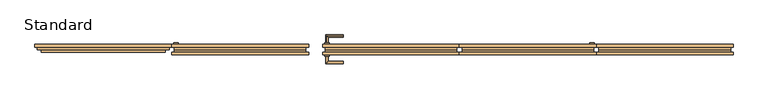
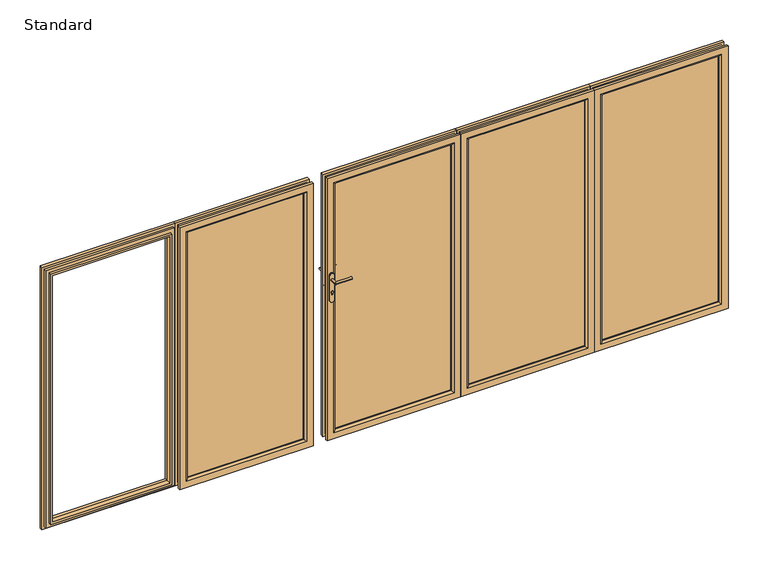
"""IFC4 building model written with IfcOpenShell, lengths in millimetres: door geometry, SMARTS_Visofold1000 : Standard."""

from ifc_helpers import new_model, si_unit, point, frame, frame_2d, origin, place, context, project, spatial, polyline, circle_curve, ellipse_curve, trimmed, segment, composite_curve, outline, extrude, faceted_brep, source, transform, mapped, element, save
from ifc_brep_helpers import plane_surface, cylinder_surface, advanced_brep


def standard_3cb3bd3f(model_context):
    return source(origin(), model_context, "Body", "SolidModel", [
        extrude(outline(composite_curve([segment(polyline([(1228.0996413, 1450.0), (1040.0996413, 1450.0)]), True, "CONTINUOUS"), segment(trimmed(circle_curve(frame_2d((1040.0996413, 1466.0)), 16.0), [point((1040.0996413, 1450.0))], [point((1040.0996413, 1482.0))], False, "CARTESIAN"), True, "CONTINUOUS"), segment(polyline([(1040.0996413, 1482.0), (1228.0996413, 1482.0)]), True, "CONTINUOUS"), segment(trimmed(circle_curve(frame_2d((1228.0996413, 1466.0)), 16.0), [point((1228.0996413, 1482.0))], [point((1228.0996413, 1450.0))], False, "CARTESIAN"), True, "CONTINUOUS")], self_intersect=False)), frame((0.0, 75.0, 0.0), z_axis=(0.0, 1.0, 0.0), x_axis=(0.0, 0.0, 1.0)), (0.0, 0.0, 1.0), 10.0),
        extrude(outline(polyline([(45.0, 1451.0), (1955.0, 1451.0), (1955.0, 577.0), (45.0, 577.0), (45.0, 1451.0)]), holes=[polyline([(1939.5, 1435.5), (60.5, 1435.5), (60.5, 592.5), (1939.5, 592.5), (1939.5, 1435.5)])]), frame((0.0, 17.4, 0.0), z_axis=(0.0, 1.0, 0.0), x_axis=(0.0, 0.0, 1.0)), (0.0, 0.0, 1.0), 35.0),
        faceted_brep([(1496.0, 74.4, 0.0), (1496.0, 74.4, 2000.0), (1496.0, 52.4, 2000.0), (1496.0, 52.4, 0.0), (1435.5, 52.4, 60.5), (1435.5, 52.4, 1939.5), (1435.5, 74.4, 1939.5), (1435.5, 74.4, 60.5), (532.0, 74.4, 2000.0), (532.0, 52.4, 2000.0), (592.5, 52.4, 1939.5), (592.5, 74.4, 1939.5), (532.0, 74.4, 0.0), (532.0, 52.4, 0.0), (592.5, 52.4, 60.5), (592.5, 74.4, 60.5), (1478.1308519, 34.8, 17.8691481), (1478.1308519, 34.8, 1982.1308519), (549.8691481, 34.8, 1982.1308519), (549.8691481, 34.8, 17.8691481), (1451.0, 34.8, 1955.0), (1451.0, 34.8, 45.0), (577.0, 34.8, 45.0), (577.0, 34.8, 1955.0), (1478.1308519, 52.4, 17.8691481), (1478.1308519, 52.4, 1982.1308519), (1451.0, 52.4, 1955.0), (1451.0, 52.4, 45.0), (549.8691481, 52.4, 1982.1308519), (577.0, 52.4, 1955.0), (549.8691481, 52.4, 17.8691481), (577.0, 52.4, 45.0)], [[[0, 1, 2, 3]], [[4, 5, 6, 7]], [[1, 8, 9, 2]], [[5, 10, 11, 6]], [[8, 12, 13, 9]], [[10, 14, 15, 11]], [[12, 0, 3, 13]], [[1, 0, 12, 8], [7, 6, 11, 15]], [[14, 4, 7, 15]], [[16, 17, 18, 19], [20, 21, 22, 23]], [[24, 25, 17, 16]], [[21, 20, 26, 27]], [[25, 28, 18, 17]], [[20, 23, 29, 26]], [[28, 30, 19, 18]], [[23, 22, 31, 29]], [[30, 24, 16, 19]], [[3, 2, 9, 13], [25, 24, 30, 28]], [[27, 26, 29, 31], [5, 4, 14, 10]], [[22, 21, 27, 31]]]),
        advanced_brep(
        [(1435.5, 13.3, 60.5), (1435.5, 13.3, 1939.5), (1435.5, 17.4, 1939.5), (1435.5, 17.4, 60.5), (1496.0, 17.4, 0.0), (1496.0, 17.4, 2000.0), (1496.0, 0.0, 2000.0), (1496.0, 0.0, 0.0), (592.5, 13.3, 1939.5), (592.5, 17.4, 1939.5), (532.0, 17.4, 2000.0), (532.0, 0.0, 2000.0), (592.5, 13.3, 60.5), (592.5, 17.4, 60.5), (532.0, 17.4, 0.0), (532.0, 0.0, 0.0), (1448.8, 0.0, 1952.8), (1448.8, 0.0, 47.2), (579.2, 0.0, 47.2), (579.2, 0.0, 1952.8), (1478.1308519, 34.8, 17.8691481), (1478.1308519, 34.8, 1982.1308519), (1478.1308519, 17.4, 1982.1308519), (1478.1308519, 17.4, 17.8691481), (549.8691481, 34.8, 1982.1308519), (549.8691481, 17.4, 1982.1308519), (549.8691481, 34.8, 17.8691481), (549.8691481, 17.4, 17.8691481), (1451.0, 17.4, 45.0), (1451.0, 17.4, 1955.0), (1451.0, 34.8, 1955.0), (1451.0, 34.8, 45.0), (577.0, 17.4, 1955.0), (577.0, 34.8, 1955.0), (577.0, 17.4, 45.0), (577.0, 34.8, 45.0)],
        [
            (0, 1),
            (1, 2),
            (2, 3),
            (3, 0),
            (4, 5),
            (5, 6),
            (6, 7),
            (7, 4),
            (1, 8),
            (8, 9),
            (9, 2),
            (5, 10),
            (10, 11),
            (11, 6),
            (8, 12),
            (12, 13),
            (13, 9),
            (10, 14),
            (14, 15),
            (15, 11),
            (12, 0),
            (3, 13),
            (15, 7),
            (16, 17),
            (17, 18),
            (18, 19),
            (19, 16),
            (14, 4),
            (16, 1, ellipse_curve(frame((1448.8, 13.3, 1952.8), z_axis=(0.7071067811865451, 0.0, -0.70710678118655), x_axis=(-0.7071067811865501, 0.0, -0.7071067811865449)), 18.8090404, 13.3)),
            (0, 17, ellipse_curve(frame((1448.8, 13.3, 47.2), z_axis=(0.7071067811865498, 0.0, 0.7071067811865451), x_axis=(0.7071067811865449, 0.0, -0.70710678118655)), 18.8090404, 13.3)),
            (19, 8, ellipse_curve(frame((579.2, 13.3, 1952.8), z_axis=(0.7071067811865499, 0.0, 0.707106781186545), x_axis=(0.7071067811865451, 0.0, -0.7071067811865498)), 18.8090404, 13.3)),
            (18, 12, ellipse_curve(frame((579.2, 13.3, 47.2), z_axis=(-0.7071067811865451, 0.0, 0.7071067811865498), x_axis=(0.7071067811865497, 0.0, 0.7071067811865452)), 18.8090404, 13.3)),
            (20, 21),
            (21, 22),
            (22, 23),
            (23, 20),
            (21, 24),
            (24, 25),
            (25, 22),
            (24, 26),
            (26, 27),
            (27, 25),
            (27, 23),
            (26, 20),
            (28, 29),
            (29, 30),
            (30, 31),
            (31, 28),
            (29, 32),
            (32, 33),
            (33, 30),
            (32, 34),
            (34, 35),
            (35, 33),
            (34, 28),
            (31, 35),
        ],
        [
            plane_surface(frame((1435.5, 17.4, 60.5), z_axis=(-1.0, 0.0, 0.0), x_axis=(0.0, 0.0, 1.0))),
            plane_surface(frame((1496.0, 0.0, 0.0), z_axis=(1.0, 0.0, 0.0), x_axis=(0.0, 0.0, 1.0))),
            plane_surface(frame((1435.5, 17.4, 1939.5), z_axis=(0.0, 0.0, -1.0), x_axis=(-1.0, 0.0, 0.0))),
            plane_surface(frame((1496.0, 0.0, 2000.0), z_axis=(0.0, 0.0, 1.0), x_axis=(-1.0, 0.0, 0.0))),
            plane_surface(frame((592.5, 17.4, 1939.5), z_axis=(1.0, 0.0, 0.0), x_axis=(0.0, 0.0, -1.0))),
            plane_surface(frame((532.0, 0.0, 2000.0), z_axis=(-1.0, 0.0, 0.0), x_axis=(0.0, 0.0, -1.0))),
            plane_surface(frame((592.5, 17.4, 60.5), z_axis=(0.0, 0.0, 1.0), x_axis=(1.0, 0.0, 0.0))),
            plane_surface(frame((579.2, 0.0, 47.2), z_axis=(0.0, -1.0, 0.0), x_axis=(1.0, 0.0, 0.0))),
            plane_surface(frame((532.0, 0.0, 0.0), z_axis=(0.0, 0.0, -1.0), x_axis=(1.0, 0.0, 0.0))),
            cylinder_surface(frame((1448.8, 13.3, 0.0), z_axis=(0.0, 0.0, -1.0), x_axis=(0.0, 1.0, 0.0)), 13.3),
            cylinder_surface(frame((1496.0, 13.3, 1952.8), z_axis=(1.0, 0.0, 0.0), x_axis=(0.0, 1.0, 0.0)), 13.3),
            cylinder_surface(frame((579.2, 13.3, 2000.0), z_axis=(0.0, 0.0, 1.0), x_axis=(0.0, 1.0, 0.0)), 13.3),
            cylinder_surface(frame((532.0, 13.3, 47.2), z_axis=(-1.0, 0.0, 0.0), x_axis=(0.0, 1.0, 0.0)), 13.3),
            plane_surface(frame((1478.1308519, 17.4, 17.8691481), z_axis=(1.0, 0.0, 0.0), x_axis=(0.0, 0.0, 1.0))),
            plane_surface(frame((1478.1308519, 17.4, 1982.1308519), z_axis=(0.0, 0.0, 1.0), x_axis=(-1.0, 0.0, 0.0))),
            plane_surface(frame((549.8691481, 17.4, 1982.1308519), z_axis=(-1.0, 0.0, 0.0), x_axis=(0.0, 0.0, -1.0))),
            plane_surface(frame((532.0, 17.4, 0.0), z_axis=(0.0, 1.0, 0.0), x_axis=(1.0, 0.0, 0.0))),
            plane_surface(frame((549.8691481, 17.4, 17.8691481), z_axis=(0.0, 0.0, -1.0), x_axis=(1.0, 0.0, 0.0))),
            plane_surface(frame((1451.0, 34.8, 45.0), z_axis=(-1.0, 0.0, 0.0), x_axis=(0.0, 0.0, 1.0))),
            plane_surface(frame((1451.0, 34.8, 1955.0), z_axis=(0.0, 0.0, -1.0), x_axis=(-1.0, 0.0, 0.0))),
            plane_surface(frame((577.0, 34.8, 1955.0), z_axis=(1.0, 0.0, 0.0), x_axis=(0.0, 0.0, -1.0))),
            plane_surface(frame((577.0, 34.8, 45.0), z_axis=(0.0, 0.0, 1.0), x_axis=(1.0, 0.0, 0.0))),
            plane_surface(frame((577.0, 17.4, 45.0), z_axis=(0.0, 1.0, 0.0), x_axis=(1.0, 0.0, 0.0))),
            plane_surface(frame((549.8691481, 34.8, 17.8691481), z_axis=(0.0, 1.0, 0.0), x_axis=(1.0, 0.0, 0.0))),
        ],
        [
            (0, [[1, 2, 3, 4]]),
            (1, [[5, 6, 7, 8]]),
            (2, [[9, 10, 11, -2]]),
            (3, [[12, 13, 14, -6]]),
            (4, [[15, 16, 17, -10]]),
            (5, [[18, 19, 20, -13]]),
            (6, [[21, -4, 22, -16]]),
            (7, [[-7, -14, -20, 23], [24, 25, 26, 27]]),
            (8, [[28, -8, -23, -19]]),
            (9, [[-24, 29, -1, 30]]),
            (10, [[-27, 31, -9, -29]]),
            (11, [[-26, 32, -15, -31]]),
            (12, [[-25, -30, -21, -32]]),
            (13, [[33, 34, 35, 36]]),
            (14, [[37, 38, 39, -34]]),
            (15, [[40, 41, 42, -38]]),
            (16, [[-5, -28, -18, -12], [-35, -39, -42, 43]]),
            (17, [[44, -36, -43, -41]]),
            (18, [[45, 46, 47, 48]]),
            (19, [[49, 50, 51, -46]]),
            (20, [[52, 53, 54, -50]]),
            (21, [[55, -48, 56, -53]]),
            (22, [[-45, -55, -52, -49], [-3, -11, -17, -22]]),
            (23, [[-33, -44, -40, -37], [-47, -51, -54, -56]]),
        ],
    ),
        extrude(outline(polyline([(1435.5, 50.1484783), (1435.5, 21.4), (592.5, 21.4), (592.5, 50.1484783), (1435.5, 50.1484783)])), frame((0.0, 0.0, 60.5), z_axis=(0.0, 0.0, 1.0), x_axis=(1.0, 0.0, 0.0)), (0.0, 0.0, 1.0), 1879.0),
        advanced_brep(
        [(-402.0, 75.0, 1232.5996413), (-402.0, 75.0, 1215.5996413), (-402.0, 130.0, 1215.5996413), (-402.0, 130.0, 1232.5996413), (-287.0, 130.0, 1232.5996413), (-287.0, 130.0, 1215.5996413)],
        [
            (0, 1, circle_curve(frame((-402.0, 75.0, 1224.0996413), z_axis=(0.0, -1.0, 0.0), x_axis=(0.0, 0.0, -1.0)), 8.5)),
            (1, 0, circle_curve(frame((-402.0, 75.0, 1224.0996413), z_axis=(0.0, -1.0, 0.0), x_axis=(0.0, 0.0, -1.0)), 8.5)),
            (1, 2),
            (2, 3, ellipse_curve(frame((-402.0, 130.0, 1224.0996413), z_axis=(-0.7071067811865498, -0.7071067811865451, 0.0), x_axis=(0.707106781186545, -0.70710678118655, 0.0)), 12.0208153, 8.5)),
            (3, 0),
            (3, 2, ellipse_curve(frame((-402.0, 130.0, 1224.0996413), z_axis=(-0.7071067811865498, -0.7071067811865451, 0.0), x_axis=(0.707106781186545, -0.70710678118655, 0.0)), 12.0208153, 8.5)),
            (4, 5, circle_curve(frame((-287.0, 130.0, 1224.0996413), z_axis=(1.0, 0.0, 0.0), x_axis=(0.0, 0.0, -1.0)), 8.5)),
            (5, 4, circle_curve(frame((-287.0, 130.0, 1224.0996413), z_axis=(1.0, 0.0, 0.0), x_axis=(0.0, 0.0, -1.0)), 8.5)),
            (2, 5),
            (4, 3),
        ],
        [
            plane_surface(frame((-402.0, 75.0, 1224.0996413), z_axis=(0.0, -1.0, 0.0), x_axis=(0.0, 0.0, -1.0))),
            cylinder_surface(frame((-402.0, 75.0, 1224.0996413), z_axis=(0.0, -1.0, 0.0), x_axis=(0.0, 0.0, -1.0)), 8.5),
            plane_surface(frame((-287.0, 130.0, 1224.0996413), z_axis=(1.0, 0.0, 0.0), x_axis=(0.0, 0.0, -1.0))),
            cylinder_surface(frame((-402.0, 130.0, 1224.0996413), z_axis=(-1.0, 0.0, 0.0), x_axis=(0.0, 0.0, -1.0)), 8.5),
        ],
        [
            (0, [[1, 2]]),
            (1, [[-2, 3, 4, 5]]),
            (1, [[-1, -5, 6, -3]]),
            (2, [[7, 8]]),
            (3, [[-4, 9, -7, 10]]),
            (3, [[-6, -10, -8, -9]]),
        ],
    ),
        extrude(outline(composite_curve([segment(trimmed(circle_curve(frame_2d((1258.0996413, -402.0)), 16.0), [point((1258.0996413, -386.0))], [point((1258.0996413, -418.0))], False, "CARTESIAN"), True, "CONTINUOUS"), segment(polyline([(1258.0996413, -418.0), (1070.0996413, -418.0)]), True, "CONTINUOUS"), segment(trimmed(circle_curve(frame_2d((1070.0996413, -402.0)), 16.0), [point((1070.0996413, -418.0))], [point((1070.0996413, -386.0))], False, "CARTESIAN"), True, "CONTINUOUS"), segment(polyline([(1070.0996413, -386.0), (1258.0996413, -386.0)]), True, "CONTINUOUS")], self_intersect=False)), frame((0.0, 75.0, 0.0), z_axis=(0.0, 1.0, 0.0), x_axis=(0.0, 0.0, 1.0)), (0.0, 0.0, 1.0), 10.0),
        advanced_brep(
        [(-393.5, 0.0, 1224.0996413), (-410.5, 0.0, 1224.0996413), (-393.5, -46.5, 1224.0996413), (-410.5, -63.5, 1224.0996413), (-287.0, -46.5, 1224.0996413), (-287.0, -63.5, 1224.0996413)],
        [
            (0, 1, circle_curve(frame((-402.0, 0.0, 1224.0996413), z_axis=(0.0, 1.0, 0.0), x_axis=(-1.0, 0.0, 0.0)), 8.5)),
            (1, 0, circle_curve(frame((-402.0, 0.0, 1224.0996413), z_axis=(0.0, 1.0, 0.0), x_axis=(-1.0, 0.0, 0.0)), 8.5)),
            (0, 2),
            (2, 3, ellipse_curve(frame((-402.0, -55.0, 1224.0996413), z_axis=(-0.7071067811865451, 0.7071067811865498, 0.0), x_axis=(0.7071067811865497, 0.7071067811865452, 0.0)), 12.0208153, 8.5)),
            (3, 1),
            (3, 2, ellipse_curve(frame((-402.0, -55.0, 1224.0996413), z_axis=(-0.7071067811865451, 0.7071067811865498, 0.0), x_axis=(0.7071067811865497, 0.7071067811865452, 0.0)), 12.0208153, 8.5)),
            (4, 5, circle_curve(frame((-287.0, -55.0, 1224.0996413), z_axis=(1.0, 0.0, 0.0), x_axis=(0.0, -1.0, 0.0)), 8.5)),
            (5, 4, circle_curve(frame((-287.0, -55.0, 1224.0996413), z_axis=(1.0, 0.0, 0.0), x_axis=(0.0, -1.0, 0.0)), 8.5)),
            (2, 4),
            (5, 3),
        ],
        [
            plane_surface(frame((-402.0, 0.0, 1224.0996413), z_axis=(0.0, 1.0, 0.0), x_axis=(0.0, 0.0, -1.0))),
            cylinder_surface(frame((-402.0, 0.0, 1224.0996413), z_axis=(0.0, 1.0, 0.0), x_axis=(-1.0, 0.0, 0.0)), 8.5),
            plane_surface(frame((-287.0, -55.0, 1224.0996413), z_axis=(1.0, 0.0, 0.0), x_axis=(0.0, 0.0, -1.0))),
            cylinder_surface(frame((-402.0, -55.0, 1224.0996413), z_axis=(-1.0, 0.0, 0.0), x_axis=(0.0, -1.0, 0.0)), 8.5),
        ],
        [
            (0, [[1, 2]]),
            (1, [[-1, 3, 4, 5]]),
            (1, [[-2, -5, 6, -3]]),
            (2, [[7, 8]]),
            (3, [[-4, 9, -8, 10]]),
            (3, [[-6, -10, -7, -9]]),
        ],
    ),
        extrude(outline(composite_curve([segment(trimmed(circle_curve(frame_2d((1258.0996413, -402.0)), 16.0), [point((1258.0996413, -386.0))], [point((1258.0996413, -418.0))], False, "CARTESIAN"), True, "CONTINUOUS"), segment(polyline([(1258.0996413, -418.0), (1070.0996413, -418.0)]), True, "CONTINUOUS"), segment(trimmed(circle_curve(frame_2d((1070.0996413, -402.0)), 16.0), [point((1070.0996413, -418.0))], [point((1070.0996413, -386.0))], False, "CARTESIAN"), True, "CONTINUOUS"), segment(polyline([(1070.0996413, -386.0), (1258.0996413, -386.0)]), True, "CONTINUOUS")], self_intersect=False)), frame((0.0, -10.0, 0.0), z_axis=(0.0, 1.0, 0.0), x_axis=(0.0, 0.0, 1.0)), (0.0, 0.0, 1.0), 10.0),
        extrude(outline(composite_curve([segment(trimmed(circle_curve(frame_2d((1132.0996413, -401.9428094)), 8.5), [point((1125.1769586, -397.0106229))], [point((1125.27562, -407.0106229))], False, "CARTESIAN"), True, "CONTINUOUS"), segment(polyline([(1125.27562, -407.0106229), (1117.5996413, -407.0106229)]), True, "CONTINUOUS"), segment(trimmed(circle_curve(frame_2d((1117.5996413, -402.0106229)), 5.0), [point((1117.5996413, -407.0106229))], [point((1117.5996413, -397.0106229))], False, "CARTESIAN"), True, "CONTINUOUS"), segment(polyline([(1117.5996413, -397.0106229), (1125.1769586, -397.0106229)]), True, "CONTINUOUS")], self_intersect=False)), frame((0.0, 85.0, 0.0), z_axis=(0.0, 1.0, 0.0), x_axis=(0.0, 0.0, 1.0)), (0.0, 0.0, 1.0), 2.0),
        extrude(outline(composite_curve([segment(trimmed(circle_curve(frame_2d((1132.0996413, -401.9428094)), 8.5), [point((1125.1769586, -397.0106229))], [point((1125.27562, -407.0106229))], False, "CARTESIAN"), True, "CONTINUOUS"), segment(polyline([(1125.27562, -407.0106229), (1117.5996413, -407.0106229)]), True, "CONTINUOUS"), segment(trimmed(circle_curve(frame_2d((1117.5996413, -402.0106229)), 5.0), [point((1117.5996413, -407.0106229))], [point((1117.5996413, -397.0106229))], False, "CARTESIAN"), True, "CONTINUOUS"), segment(polyline([(1117.5996413, -397.0106229), (1125.1769586, -397.0106229)]), True, "CONTINUOUS")], self_intersect=False)), frame((0.0, -12.0, 0.0), z_axis=(0.0, 1.0, 0.0), x_axis=(0.0, 0.0, 1.0)), (0.0, 0.0, 1.0), 2.0),
        extrude(outline(polyline([(45.0, -387.0), (45.0, 487.0), (1955.0, 487.0), (1955.0, -387.0), (45.0, -387.0)]), holes=[polyline([(1939.5, -371.5), (1939.5, 471.5), (60.5, 471.5), (60.5, -371.5), (1939.5, -371.5)])]), frame((0.0, 17.4, 0.0), z_axis=(0.0, 1.0, 0.0), x_axis=(0.0, 0.0, 1.0)), (0.0, 0.0, 1.0), 35.0),
        faceted_brep([(-432.0, 74.4, 0.0), (-432.0, 52.4, 0.0), (-432.0, 52.4, 2000.0), (-432.0, 74.4, 2000.0), (-371.5, 52.4, 60.5), (-371.5, 74.4, 60.5), (-371.5, 74.4, 1939.5), (-371.5, 52.4, 1939.5), (532.0, 52.4, 2000.0), (532.0, 74.4, 2000.0), (471.5, 74.4, 1939.5), (471.5, 52.4, 1939.5), (532.0, 52.4, 0.0), (532.0, 74.4, 0.0), (471.5, 74.4, 60.5), (471.5, 52.4, 60.5), (-414.1308519, 34.8, 17.8691481), (514.1308519, 34.8, 17.8691481), (514.1308519, 34.8, 1982.1308519), (-414.1308519, 34.8, 1982.1308519), (-387.0, 34.8, 1955.0), (487.0, 34.8, 1955.0), (487.0, 34.8, 45.0), (-387.0, 34.8, 45.0), (-414.1308519, 52.4, 17.8691481), (-414.1308519, 52.4, 1982.1308519), (-387.0, 52.4, 45.0), (-387.0, 52.4, 1955.0), (514.1308519, 52.4, 1982.1308519), (487.0, 52.4, 1955.0), (514.1308519, 52.4, 17.8691481), (487.0, 52.4, 45.0)], [[[0, 1, 2, 3]], [[4, 5, 6, 7]], [[3, 2, 8, 9]], [[7, 6, 10, 11]], [[9, 8, 12, 13]], [[11, 10, 14, 15]], [[13, 12, 1, 0]], [[3, 9, 13, 0], [5, 14, 10, 6]], [[15, 14, 5, 4]], [[16, 17, 18, 19], [20, 21, 22, 23]], [[24, 16, 19, 25]], [[23, 26, 27, 20]], [[25, 19, 18, 28]], [[20, 27, 29, 21]], [[28, 18, 17, 30]], [[21, 29, 31, 22]], [[30, 17, 16, 24]], [[1, 12, 8, 2], [25, 28, 30, 24]], [[26, 31, 29, 27], [7, 11, 15, 4]], [[22, 31, 26, 23]]]),
        advanced_brep(
        [(-371.5, 13.3, 60.5), (-371.5, 17.4, 60.5), (-371.5, 17.4, 1939.5), (-371.5, 13.3, 1939.5), (-432.0, 17.4, 0.0), (-432.0, 0.0, 0.0), (-432.0, 0.0, 2000.0), (-432.0, 17.4, 2000.0), (471.5, 17.4, 1939.5), (471.5, 13.3, 1939.5), (532.0, 0.0, 2000.0), (532.0, 17.4, 2000.0), (471.5, 17.4, 60.5), (471.5, 13.3, 60.5), (532.0, 0.0, 0.0), (532.0, 17.4, 0.0), (-384.8, 0.0, 1952.8), (484.8, 0.0, 1952.8), (484.8, 0.0, 47.2), (-384.8, 0.0, 47.2), (-414.1308519, 34.8, 17.8691481), (-414.1308519, 17.4, 17.8691481), (-414.1308519, 17.4, 1982.1308519), (-414.1308519, 34.8, 1982.1308519), (514.1308519, 17.4, 1982.1308519), (514.1308519, 34.8, 1982.1308519), (514.1308519, 17.4, 17.8691481), (514.1308519, 34.8, 17.8691481), (-387.0, 17.4, 45.0), (-387.0, 34.8, 45.0), (-387.0, 34.8, 1955.0), (-387.0, 17.4, 1955.0), (487.0, 34.8, 1955.0), (487.0, 17.4, 1955.0), (487.0, 34.8, 45.0), (487.0, 17.4, 45.0)],
        [
            (0, 1),
            (1, 2),
            (2, 3),
            (3, 0),
            (4, 5),
            (5, 6),
            (6, 7),
            (7, 4),
            (2, 8),
            (8, 9),
            (9, 3),
            (6, 10),
            (10, 11),
            (11, 7),
            (8, 12),
            (12, 13),
            (13, 9),
            (10, 14),
            (14, 15),
            (15, 11),
            (12, 1),
            (0, 13),
            (5, 14),
            (16, 17),
            (17, 18),
            (18, 19),
            (19, 16),
            (4, 15),
            (19, 0, ellipse_curve(frame((-384.8, 13.3, 47.2), z_axis=(-0.7071067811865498, 0.0, 0.7071067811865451), x_axis=(-0.7071067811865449, 0.0, -0.70710678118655)), 18.8090404, 13.3)),
            (3, 16, ellipse_curve(frame((-384.8, 13.3, 1952.8), z_axis=(-0.7071067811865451, 0.0, -0.70710678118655), x_axis=(0.7071067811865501, 0.0, -0.7071067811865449)), 18.8090404, 13.3)),
            (9, 17, ellipse_curve(frame((484.8, 13.3, 1952.8), z_axis=(-0.7071067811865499, 0.0, 0.707106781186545), x_axis=(-0.7071067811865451, 0.0, -0.7071067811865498)), 18.8090404, 13.3)),
            (13, 18, ellipse_curve(frame((484.8, 13.3, 47.2), z_axis=(0.7071067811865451, 0.0, 0.7071067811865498), x_axis=(-0.7071067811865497, 0.0, 0.7071067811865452)), 18.8090404, 13.3)),
            (20, 21),
            (21, 22),
            (22, 23),
            (23, 20),
            (22, 24),
            (24, 25),
            (25, 23),
            (24, 26),
            (26, 27),
            (27, 25),
            (21, 26),
            (20, 27),
            (28, 29),
            (29, 30),
            (30, 31),
            (31, 28),
            (30, 32),
            (32, 33),
            (33, 31),
            (32, 34),
            (34, 35),
            (35, 33),
            (34, 29),
            (28, 35),
        ],
        [
            plane_surface(frame((-371.5, 17.4, 60.5), z_axis=(1.0, 0.0, 0.0), x_axis=(0.0, 0.0, 1.0))),
            plane_surface(frame((-432.0, 0.0, 0.0), z_axis=(-1.0, 0.0, 0.0), x_axis=(0.0, 0.0, 1.0))),
            plane_surface(frame((-371.5, 17.4, 1939.5), z_axis=(0.0, 0.0, -1.0), x_axis=(1.0, 0.0, 0.0))),
            plane_surface(frame((-432.0, 0.0, 2000.0), z_axis=(0.0, 0.0, 1.0), x_axis=(1.0, 0.0, 0.0))),
            plane_surface(frame((471.5, 17.4, 1939.5), z_axis=(-1.0, 0.0, 0.0), x_axis=(0.0, 0.0, -1.0))),
            plane_surface(frame((532.0, 0.0, 2000.0), z_axis=(1.0, 0.0, 0.0), x_axis=(0.0, 0.0, -1.0))),
            plane_surface(frame((471.5, 17.4, 60.5), z_axis=(0.0, 0.0, 1.0), x_axis=(-1.0, 0.0, 0.0))),
            plane_surface(frame((484.8, 0.0, 47.2), z_axis=(0.0, -1.0, 0.0), x_axis=(-1.0, 0.0, 0.0))),
            plane_surface(frame((532.0, 0.0, 0.0), z_axis=(0.0, 0.0, -1.0), x_axis=(-1.0, 0.0, 0.0))),
            cylinder_surface(frame((-384.8, 13.3, 0.0), z_axis=(0.0, 0.0, -1.0), x_axis=(0.0, 1.0, 0.0)), 13.3),
            cylinder_surface(frame((-432.0, 13.3, 1952.8), z_axis=(-1.0, 0.0, 0.0), x_axis=(0.0, 1.0, 0.0)), 13.3),
            cylinder_surface(frame((484.8, 13.3, 2000.0), z_axis=(0.0, 0.0, 1.0), x_axis=(0.0, 1.0, 0.0)), 13.3),
            cylinder_surface(frame((532.0, 13.3, 47.2), z_axis=(1.0, 0.0, 0.0), x_axis=(0.0, 1.0, 0.0)), 13.3),
            plane_surface(frame((-414.1308519, 17.4, 17.8691481), z_axis=(-1.0, 0.0, 0.0), x_axis=(0.0, 0.0, 1.0))),
            plane_surface(frame((-414.1308519, 17.4, 1982.1308519), z_axis=(0.0, 0.0, 1.0), x_axis=(1.0, 0.0, 0.0))),
            plane_surface(frame((514.1308519, 17.4, 1982.1308519), z_axis=(1.0, 0.0, 0.0), x_axis=(0.0, 0.0, -1.0))),
            plane_surface(frame((532.0, 17.4, 0.0), z_axis=(0.0, 1.0, 0.0), x_axis=(-1.0, 0.0, 0.0))),
            plane_surface(frame((514.1308519, 17.4, 17.8691481), z_axis=(0.0, 0.0, -1.0), x_axis=(-1.0, 0.0, 0.0))),
            plane_surface(frame((-387.0, 34.8, 45.0), z_axis=(1.0, 0.0, 0.0), x_axis=(0.0, 0.0, 1.0))),
            plane_surface(frame((-387.0, 34.8, 1955.0), z_axis=(0.0, 0.0, -1.0), x_axis=(1.0, 0.0, 0.0))),
            plane_surface(frame((487.0, 34.8, 1955.0), z_axis=(-1.0, 0.0, 0.0), x_axis=(0.0, 0.0, -1.0))),
            plane_surface(frame((487.0, 34.8, 45.0), z_axis=(0.0, 0.0, 1.0), x_axis=(-1.0, 0.0, 0.0))),
            plane_surface(frame((487.0, 17.4, 45.0), z_axis=(0.0, 1.0, 0.0), x_axis=(-1.0, 0.0, 0.0))),
            plane_surface(frame((514.1308519, 34.8, 17.8691481), z_axis=(0.0, 1.0, 0.0), x_axis=(-1.0, 0.0, 0.0))),
        ],
        [
            (0, [[1, 2, 3, 4]]),
            (1, [[5, 6, 7, 8]]),
            (2, [[-3, 9, 10, 11]]),
            (3, [[-7, 12, 13, 14]]),
            (4, [[-10, 15, 16, 17]]),
            (5, [[-13, 18, 19, 20]]),
            (6, [[-16, 21, -1, 22]]),
            (7, [[23, -18, -12, -6], [24, 25, 26, 27]]),
            (8, [[-19, -23, -5, 28]]),
            (9, [[29, -4, 30, -27]]),
            (10, [[-30, -11, 31, -24]]),
            (11, [[-31, -17, 32, -25]]),
            (12, [[-32, -22, -29, -26]]),
            (13, [[33, 34, 35, 36]]),
            (14, [[-35, 37, 38, 39]]),
            (15, [[-38, 40, 41, 42]]),
            (16, [[-14, -20, -28, -8], [43, -40, -37, -34]]),
            (17, [[-41, -43, -33, 44]]),
            (18, [[45, 46, 47, 48]]),
            (19, [[-47, 49, 50, 51]]),
            (20, [[-50, 52, 53, 54]]),
            (21, [[-53, 55, -45, 56]]),
            (22, [[-51, -54, -56, -48], [-21, -15, -9, -2]]),
            (23, [[-39, -42, -44, -36], [-55, -52, -49, -46]]),
        ],
    ),
        extrude(outline(polyline([(-371.5, 50.1484783), (471.5, 50.1484783), (471.5, 21.4), (-371.5, 21.4), (-371.5, 50.1484783)])), frame((0.0, 0.0, 60.5), z_axis=(0.0, 0.0, 1.0), x_axis=(1.0, 0.0, 0.0)), (0.0, 0.0, 1.0), 1879.0),
        extrude(outline(polyline([(45.0, 1541.0), (45.0, 2415.0), (1955.0, 2415.0), (1955.0, 1541.0), (45.0, 1541.0)]), holes=[polyline([(1939.5, 1556.5), (1939.5, 2399.5), (60.5, 2399.5), (60.5, 1556.5), (1939.5, 1556.5)])]), frame((0.0, 17.4, 0.0), z_axis=(0.0, 1.0, 0.0), x_axis=(0.0, 0.0, 1.0)), (0.0, 0.0, 1.0), 35.0),
        faceted_brep([(1496.0, 74.4, 0.0), (1496.0, 52.4, 0.0), (1496.0, 52.4, 2000.0), (1496.0, 74.4, 2000.0), (1556.5, 52.4, 60.5), (1556.5, 74.4, 60.5), (1556.5, 74.4, 1939.5), (1556.5, 52.4, 1939.5), (2460.0, 74.4, 0.0), (2460.0, 52.4, 0.0), (2460.0, 52.4, 2000.0), (2460.0, 74.4, 2000.0), (2399.5, 74.4, 1939.5), (2399.5, 52.4, 1939.5), (2399.5, 74.4, 60.5), (2399.5, 52.4, 60.5), (1513.8691481, 34.8, 17.8691481), (2442.1308519, 34.8, 17.8691481), (2442.1308519, 34.8, 1982.1308519), (1513.8691481, 34.8, 1982.1308519), (1541.0, 34.8, 1955.0), (2415.0, 34.8, 1955.0), (2415.0, 34.8, 45.0), (1541.0, 34.8, 45.0), (1513.8691481, 52.4, 17.8691481), (1513.8691481, 52.4, 1982.1308519), (1541.0, 52.4, 45.0), (1541.0, 52.4, 1955.0), (2442.1308519, 52.4, 1982.1308519), (2415.0, 52.4, 1955.0), (2442.1308519, 52.4, 17.8691481), (2415.0, 52.4, 45.0)], [[[0, 1, 2, 3]], [[4, 5, 6, 7]], [[8, 9, 1, 0]], [[3, 2, 10, 11]], [[7, 6, 12, 13]], [[11, 10, 9, 8]], [[13, 12, 14, 15]], [[3, 11, 8, 0], [5, 14, 12, 6]], [[15, 14, 5, 4]], [[16, 17, 18, 19], [20, 21, 22, 23]], [[24, 16, 19, 25]], [[23, 26, 27, 20]], [[25, 19, 18, 28]], [[20, 27, 29, 21]], [[28, 18, 17, 30]], [[21, 29, 31, 22]], [[30, 17, 16, 24]], [[1, 9, 10, 2], [25, 28, 30, 24]], [[26, 31, 29, 27], [7, 13, 15, 4]], [[22, 31, 26, 23]]]),
        advanced_brep(
        [(1556.5, 13.3, 60.5), (1556.5, 17.4, 60.5), (1556.5, 17.4, 1939.5), (1556.5, 13.3, 1939.5), (1496.0, 17.4, 0.0), (1496.0, 0.0, 0.0), (1496.0, 0.0, 2000.0), (1496.0, 17.4, 2000.0), (2399.5, 17.4, 1939.5), (2399.5, 13.3, 1939.5), (2460.0, 0.0, 2000.0), (2460.0, 17.4, 2000.0), (2399.5, 17.4, 60.5), (2399.5, 13.3, 60.5), (2460.0, 0.0, 0.0), (2460.0, 17.4, 0.0), (1543.2, 0.0, 1952.8), (2412.8, 0.0, 1952.8), (2412.8, 0.0, 47.2), (1543.2, 0.0, 47.2), (1513.8691481, 34.8, 17.8691481), (1513.8691481, 17.4, 17.8691481), (1513.8691481, 17.4, 1982.1308519), (1513.8691481, 34.8, 1982.1308519), (2442.1308519, 17.4, 1982.1308519), (2442.1308519, 34.8, 1982.1308519), (2442.1308519, 17.4, 17.8691481), (2442.1308519, 34.8, 17.8691481), (1541.0, 17.4, 45.0), (1541.0, 34.8, 45.0), (1541.0, 34.8, 1955.0), (1541.0, 17.4, 1955.0), (2415.0, 34.8, 1955.0), (2415.0, 17.4, 1955.0), (2415.0, 34.8, 45.0), (2415.0, 17.4, 45.0)],
        [
            (0, 1),
            (1, 2),
            (2, 3),
            (3, 0),
            (4, 5),
            (5, 6),
            (6, 7),
            (7, 4),
            (2, 8),
            (8, 9),
            (9, 3),
            (6, 10),
            (10, 11),
            (11, 7),
            (8, 12),
            (12, 13),
            (13, 9),
            (10, 14),
            (14, 15),
            (15, 11),
            (12, 1),
            (0, 13),
            (5, 14),
            (16, 17),
            (17, 18),
            (18, 19),
            (19, 16),
            (4, 15),
            (19, 0, ellipse_curve(frame((1543.2, 13.3, 47.2), z_axis=(-0.7071067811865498, 0.0, 0.7071067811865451), x_axis=(-0.7071067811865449, 0.0, -0.70710678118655)), 18.8090404, 13.3)),
            (3, 16, ellipse_curve(frame((1543.2, 13.3, 1952.8), z_axis=(-0.7071067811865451, 0.0, -0.70710678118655), x_axis=(0.7071067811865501, 0.0, -0.7071067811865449)), 18.8090404, 13.3)),
            (9, 17, ellipse_curve(frame((2412.8, 13.3, 1952.8), z_axis=(-0.7071067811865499, 0.0, 0.707106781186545), x_axis=(-0.7071067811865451, 0.0, -0.7071067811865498)), 18.8090404, 13.3)),
            (13, 18, ellipse_curve(frame((2412.8, 13.3, 47.2), z_axis=(0.7071067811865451, 0.0, 0.7071067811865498), x_axis=(-0.7071067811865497, 0.0, 0.7071067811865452)), 18.8090404, 13.3)),
            (20, 21),
            (21, 22),
            (22, 23),
            (23, 20),
            (22, 24),
            (24, 25),
            (25, 23),
            (24, 26),
            (26, 27),
            (27, 25),
            (21, 26),
            (20, 27),
            (28, 29),
            (29, 30),
            (30, 31),
            (31, 28),
            (30, 32),
            (32, 33),
            (33, 31),
            (32, 34),
            (34, 35),
            (35, 33),
            (34, 29),
            (28, 35),
        ],
        [
            plane_surface(frame((1556.5, 17.4, 60.5), z_axis=(1.0, 0.0, 0.0), x_axis=(0.0, 0.0, 1.0))),
            plane_surface(frame((1496.0, 0.0, 0.0), z_axis=(-1.0, 0.0, 0.0), x_axis=(0.0, 0.0, 1.0))),
            plane_surface(frame((1556.5, 17.4, 1939.5), z_axis=(0.0, 0.0, -1.0), x_axis=(1.0, 0.0, 0.0))),
            plane_surface(frame((1496.0, 0.0, 2000.0), z_axis=(0.0, 0.0, 1.0), x_axis=(1.0, 0.0, 0.0))),
            plane_surface(frame((2399.5, 17.4, 1939.5), z_axis=(-1.0, 0.0, 0.0), x_axis=(0.0, 0.0, -1.0))),
            plane_surface(frame((2460.0, 0.0, 2000.0), z_axis=(1.0, 0.0, 0.0), x_axis=(0.0, 0.0, -1.0))),
            plane_surface(frame((2399.5, 17.4, 60.5), z_axis=(0.0, 0.0, 1.0), x_axis=(-1.0, 0.0, 0.0))),
            plane_surface(frame((2412.8, 0.0, 47.2), z_axis=(0.0, -1.0, 0.0), x_axis=(-1.0, 0.0, 0.0))),
            plane_surface(frame((2460.0, 0.0, 0.0), z_axis=(0.0, 0.0, -1.0), x_axis=(-1.0, 0.0, 0.0))),
            cylinder_surface(frame((1543.2, 13.3, 0.0), z_axis=(0.0, 0.0, -1.0), x_axis=(0.0, 1.0, 0.0)), 13.3),
            cylinder_surface(frame((1496.0, 13.3, 1952.8), z_axis=(-1.0, 0.0, 0.0), x_axis=(0.0, 1.0, 0.0)), 13.3),
            cylinder_surface(frame((2412.8, 13.3, 2000.0), z_axis=(0.0, 0.0, 1.0), x_axis=(0.0, 1.0, 0.0)), 13.3),
            cylinder_surface(frame((2460.0, 13.3, 47.2), z_axis=(1.0, 0.0, 0.0), x_axis=(0.0, 1.0, 0.0)), 13.3),
            plane_surface(frame((1513.8691481, 17.4, 17.8691481), z_axis=(-1.0, 0.0, 0.0), x_axis=(0.0, 0.0, 1.0))),
            plane_surface(frame((1513.8691481, 17.4, 1982.1308519), z_axis=(0.0, 0.0, 1.0), x_axis=(1.0, 0.0, 0.0))),
            plane_surface(frame((2442.1308519, 17.4, 1982.1308519), z_axis=(1.0, 0.0, 0.0), x_axis=(0.0, 0.0, -1.0))),
            plane_surface(frame((2460.0, 17.4, 0.0), z_axis=(0.0, 1.0, 0.0), x_axis=(-1.0, 0.0, 0.0))),
            plane_surface(frame((2442.1308519, 17.4, 17.8691481), z_axis=(0.0, 0.0, -1.0), x_axis=(-1.0, 0.0, 0.0))),
            plane_surface(frame((1541.0, 34.8, 45.0), z_axis=(1.0, 0.0, 0.0), x_axis=(0.0, 0.0, 1.0))),
            plane_surface(frame((1541.0, 34.8, 1955.0), z_axis=(0.0, 0.0, -1.0), x_axis=(1.0, 0.0, 0.0))),
            plane_surface(frame((2415.0, 34.8, 1955.0), z_axis=(-1.0, 0.0, 0.0), x_axis=(0.0, 0.0, -1.0))),
            plane_surface(frame((2415.0, 34.8, 45.0), z_axis=(0.0, 0.0, 1.0), x_axis=(-1.0, 0.0, 0.0))),
            plane_surface(frame((2415.0, 17.4, 45.0), z_axis=(0.0, 1.0, 0.0), x_axis=(-1.0, 0.0, 0.0))),
            plane_surface(frame((2442.1308519, 34.8, 17.8691481), z_axis=(0.0, 1.0, 0.0), x_axis=(-1.0, 0.0, 0.0))),
        ],
        [
            (0, [[1, 2, 3, 4]]),
            (1, [[5, 6, 7, 8]]),
            (2, [[-3, 9, 10, 11]]),
            (3, [[-7, 12, 13, 14]]),
            (4, [[-10, 15, 16, 17]]),
            (5, [[-13, 18, 19, 20]]),
            (6, [[-16, 21, -1, 22]]),
            (7, [[23, -18, -12, -6], [24, 25, 26, 27]]),
            (8, [[-19, -23, -5, 28]]),
            (9, [[29, -4, 30, -27]]),
            (10, [[-30, -11, 31, -24]]),
            (11, [[-31, -17, 32, -25]]),
            (12, [[-32, -22, -29, -26]]),
            (13, [[33, 34, 35, 36]]),
            (14, [[-35, 37, 38, 39]]),
            (15, [[-38, 40, 41, 42]]),
            (16, [[-14, -20, -28, -8], [43, -40, -37, -34]]),
            (17, [[-41, -43, -33, 44]]),
            (18, [[45, 46, 47, 48]]),
            (19, [[-47, 49, 50, 51]]),
            (20, [[-50, 52, 53, 54]]),
            (21, [[-53, 55, -45, 56]]),
            (22, [[-51, -54, -56, -48], [-21, -15, -9, -2]]),
            (23, [[-39, -42, -44, -36], [-55, -52, -49, -46]]),
        ],
    ),
        extrude(outline(polyline([(1556.5, 50.1484783), (2399.5, 50.1484783), (2399.5, 21.4), (1556.5, 21.4), (1556.5, 50.1484783)])), frame((0.0, 0.0, 60.5), z_axis=(0.0, 0.0, 1.0), x_axis=(1.0, 0.0, 0.0)), (0.0, 0.0, 1.0), 1879.0),
        extrude(outline(composite_curve([segment(trimmed(circle_curve(frame_2d((1228.0996413, -1466.0)), 16.0), [point((1228.0996413, -1450.0))], [point((1228.0996413, -1482.0))], False, "CARTESIAN"), True, "CONTINUOUS"), segment(polyline([(1228.0996413, -1482.0), (1040.0996413, -1482.0)]), True, "CONTINUOUS"), segment(trimmed(circle_curve(frame_2d((1040.0996413, -1466.0)), 16.0), [point((1040.0996413, -1482.0))], [point((1040.0996413, -1450.0))], False, "CARTESIAN"), True, "CONTINUOUS"), segment(polyline([(1040.0996413, -1450.0), (1228.0996413, -1450.0)]), True, "CONTINUOUS")], self_intersect=False)), frame((0.0, 75.0, 0.0), z_axis=(0.0, 1.0, 0.0), x_axis=(0.0, 0.0, 1.0)), (0.0, 0.0, 1.0), 10.0),
        extrude(outline(polyline([(45.0, -1451.0), (45.0, -577.0), (1955.0, -577.0), (1955.0, -1451.0), (45.0, -1451.0)]), holes=[polyline([(1939.5, -1435.5), (1939.5, -592.5), (60.5, -592.5), (60.5, -1435.5), (1939.5, -1435.5)])]), frame((0.0, 17.4, 0.0), z_axis=(0.0, 1.0, 0.0), x_axis=(0.0, 0.0, 1.0)), (0.0, 0.0, 1.0), 35.0),
        faceted_brep([(-1496.0, 74.4, 0.0), (-1496.0, 52.4, 0.0), (-1496.0, 52.4, 2000.0), (-1496.0, 74.4, 2000.0), (-1435.5, 52.4, 60.5), (-1435.5, 74.4, 60.5), (-1435.5, 74.4, 1939.5), (-1435.5, 52.4, 1939.5), (-532.0, 52.4, 2000.0), (-532.0, 74.4, 2000.0), (-592.5, 74.4, 1939.5), (-592.5, 52.4, 1939.5), (-532.0, 52.4, 0.0), (-532.0, 74.4, 0.0), (-592.5, 74.4, 60.5), (-592.5, 52.4, 60.5), (-1478.1308519, 34.8, 17.8691481), (-549.8691481, 34.8, 17.8691481), (-549.8691481, 34.8, 1982.1308519), (-1478.1308519, 34.8, 1982.1308519), (-1451.0, 34.8, 1955.0), (-577.0, 34.8, 1955.0), (-577.0, 34.8, 45.0), (-1451.0, 34.8, 45.0), (-1478.1308519, 52.4, 17.8691481), (-1478.1308519, 52.4, 1982.1308519), (-1451.0, 52.4, 45.0), (-1451.0, 52.4, 1955.0), (-549.8691481, 52.4, 1982.1308519), (-577.0, 52.4, 1955.0), (-549.8691481, 52.4, 17.8691481), (-577.0, 52.4, 45.0)], [[[0, 1, 2, 3]], [[4, 5, 6, 7]], [[3, 2, 8, 9]], [[7, 6, 10, 11]], [[9, 8, 12, 13]], [[11, 10, 14, 15]], [[13, 12, 1, 0]], [[3, 9, 13, 0], [5, 14, 10, 6]], [[15, 14, 5, 4]], [[16, 17, 18, 19], [20, 21, 22, 23]], [[24, 16, 19, 25]], [[23, 26, 27, 20]], [[25, 19, 18, 28]], [[20, 27, 29, 21]], [[28, 18, 17, 30]], [[21, 29, 31, 22]], [[30, 17, 16, 24]], [[1, 12, 8, 2], [25, 28, 30, 24]], [[26, 31, 29, 27], [7, 11, 15, 4]], [[22, 31, 26, 23]]]),
        advanced_brep(
        [(-1435.5, 13.3, 60.5), (-1435.5, 17.4, 60.5), (-1435.5, 17.4, 1939.5), (-1435.5, 13.3, 1939.5), (-1496.0, 17.4, 0.0), (-1496.0, 0.0, 0.0), (-1496.0, 0.0, 2000.0), (-1496.0, 17.4, 2000.0), (-592.5, 17.4, 1939.5), (-592.5, 13.3, 1939.5), (-532.0, 0.0, 2000.0), (-532.0, 17.4, 2000.0), (-592.5, 17.4, 60.5), (-592.5, 13.3, 60.5), (-532.0, 0.0, 0.0), (-532.0, 17.4, 0.0), (-1448.8, 0.0, 1952.8), (-579.2, 0.0, 1952.8), (-579.2, 0.0, 47.2), (-1448.8, 0.0, 47.2), (-1478.1308519, 34.8, 17.8691481), (-1478.1308519, 17.4, 17.8691481), (-1478.1308519, 17.4, 1982.1308519), (-1478.1308519, 34.8, 1982.1308519), (-549.8691481, 17.4, 1982.1308519), (-549.8691481, 34.8, 1982.1308519), (-549.8691481, 17.4, 17.8691481), (-549.8691481, 34.8, 17.8691481), (-1451.0, 17.4, 45.0), (-1451.0, 34.8, 45.0), (-1451.0, 34.8, 1955.0), (-1451.0, 17.4, 1955.0), (-577.0, 34.8, 1955.0), (-577.0, 17.4, 1955.0), (-577.0, 34.8, 45.0), (-577.0, 17.4, 45.0)],
        [
            (0, 1),
            (1, 2),
            (2, 3),
            (3, 0),
            (4, 5),
            (5, 6),
            (6, 7),
            (7, 4),
            (2, 8),
            (8, 9),
            (9, 3),
            (6, 10),
            (10, 11),
            (11, 7),
            (8, 12),
            (12, 13),
            (13, 9),
            (10, 14),
            (14, 15),
            (15, 11),
            (12, 1),
            (0, 13),
            (5, 14),
            (16, 17),
            (17, 18),
            (18, 19),
            (19, 16),
            (4, 15),
            (19, 0, ellipse_curve(frame((-1448.8, 13.3, 47.2), z_axis=(-0.7071067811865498, 0.0, 0.7071067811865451), x_axis=(-0.7071067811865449, 0.0, -0.70710678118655)), 18.8090404, 13.3)),
            (3, 16, ellipse_curve(frame((-1448.8, 13.3, 1952.8), z_axis=(-0.7071067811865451, 0.0, -0.70710678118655), x_axis=(0.7071067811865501, 0.0, -0.7071067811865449)), 18.8090404, 13.3)),
            (9, 17, ellipse_curve(frame((-579.2, 13.3, 1952.8), z_axis=(-0.7071067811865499, 0.0, 0.707106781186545), x_axis=(-0.7071067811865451, 0.0, -0.7071067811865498)), 18.8090404, 13.3)),
            (13, 18, ellipse_curve(frame((-579.2, 13.3, 47.2), z_axis=(0.7071067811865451, 0.0, 0.7071067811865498), x_axis=(-0.7071067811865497, 0.0, 0.7071067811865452)), 18.8090404, 13.3)),
            (20, 21),
            (21, 22),
            (22, 23),
            (23, 20),
            (22, 24),
            (24, 25),
            (25, 23),
            (24, 26),
            (26, 27),
            (27, 25),
            (21, 26),
            (20, 27),
            (28, 29),
            (29, 30),
            (30, 31),
            (31, 28),
            (30, 32),
            (32, 33),
            (33, 31),
            (32, 34),
            (34, 35),
            (35, 33),
            (34, 29),
            (28, 35),
        ],
        [
            plane_surface(frame((-1435.5, 17.4, 60.5), z_axis=(1.0, 0.0, 0.0), x_axis=(0.0, 0.0, 1.0))),
            plane_surface(frame((-1496.0, 0.0, 0.0), z_axis=(-1.0, 0.0, 0.0), x_axis=(0.0, 0.0, 1.0))),
            plane_surface(frame((-1435.5, 17.4, 1939.5), z_axis=(0.0, 0.0, -1.0), x_axis=(1.0, 0.0, 0.0))),
            plane_surface(frame((-1496.0, 0.0, 2000.0), z_axis=(0.0, 0.0, 1.0), x_axis=(1.0, 0.0, 0.0))),
            plane_surface(frame((-592.5, 17.4, 1939.5), z_axis=(-1.0, 0.0, 0.0), x_axis=(0.0, 0.0, -1.0))),
            plane_surface(frame((-532.0, 0.0, 2000.0), z_axis=(1.0, 0.0, 0.0), x_axis=(0.0, 0.0, -1.0))),
            plane_surface(frame((-592.5, 17.4, 60.5), z_axis=(0.0, 0.0, 1.0), x_axis=(-1.0, 0.0, 0.0))),
            plane_surface(frame((-579.2, 0.0, 47.2), z_axis=(0.0, -1.0, 0.0), x_axis=(-1.0, 0.0, 0.0))),
            plane_surface(frame((-532.0, 0.0, 0.0), z_axis=(0.0, 0.0, -1.0), x_axis=(-1.0, 0.0, 0.0))),
            cylinder_surface(frame((-1448.8, 13.3, 0.0), z_axis=(0.0, 0.0, -1.0), x_axis=(0.0, 1.0, 0.0)), 13.3),
            cylinder_surface(frame((-1496.0, 13.3, 1952.8), z_axis=(-1.0, 0.0, 0.0), x_axis=(0.0, 1.0, 0.0)), 13.3),
            cylinder_surface(frame((-579.2, 13.3, 2000.0), z_axis=(0.0, 0.0, 1.0), x_axis=(0.0, 1.0, 0.0)), 13.3),
            cylinder_surface(frame((-532.0, 13.3, 47.2), z_axis=(1.0, 0.0, 0.0), x_axis=(0.0, 1.0, 0.0)), 13.3),
            plane_surface(frame((-1478.1308519, 17.4, 17.8691481), z_axis=(-1.0, 0.0, 0.0), x_axis=(0.0, 0.0, 1.0))),
            plane_surface(frame((-1478.1308519, 17.4, 1982.1308519), z_axis=(0.0, 0.0, 1.0), x_axis=(1.0, 0.0, 0.0))),
            plane_surface(frame((-549.8691481, 17.4, 1982.1308519), z_axis=(1.0, 0.0, 0.0), x_axis=(0.0, 0.0, -1.0))),
            plane_surface(frame((-532.0, 17.4, 0.0), z_axis=(0.0, 1.0, 0.0), x_axis=(-1.0, 0.0, 0.0))),
            plane_surface(frame((-549.8691481, 17.4, 17.8691481), z_axis=(0.0, 0.0, -1.0), x_axis=(-1.0, 0.0, 0.0))),
            plane_surface(frame((-1451.0, 34.8, 45.0), z_axis=(1.0, 0.0, 0.0), x_axis=(0.0, 0.0, 1.0))),
            plane_surface(frame((-1451.0, 34.8, 1955.0), z_axis=(0.0, 0.0, -1.0), x_axis=(1.0, 0.0, 0.0))),
            plane_surface(frame((-577.0, 34.8, 1955.0), z_axis=(-1.0, 0.0, 0.0), x_axis=(0.0, 0.0, -1.0))),
            plane_surface(frame((-577.0, 34.8, 45.0), z_axis=(0.0, 0.0, 1.0), x_axis=(-1.0, 0.0, 0.0))),
            plane_surface(frame((-577.0, 17.4, 45.0), z_axis=(0.0, 1.0, 0.0), x_axis=(-1.0, 0.0, 0.0))),
            plane_surface(frame((-549.8691481, 34.8, 17.8691481), z_axis=(0.0, 1.0, 0.0), x_axis=(-1.0, 0.0, 0.0))),
        ],
        [
            (0, [[1, 2, 3, 4]]),
            (1, [[5, 6, 7, 8]]),
            (2, [[-3, 9, 10, 11]]),
            (3, [[-7, 12, 13, 14]]),
            (4, [[-10, 15, 16, 17]]),
            (5, [[-13, 18, 19, 20]]),
            (6, [[-16, 21, -1, 22]]),
            (7, [[23, -18, -12, -6], [24, 25, 26, 27]]),
            (8, [[-19, -23, -5, 28]]),
            (9, [[29, -4, 30, -27]]),
            (10, [[-30, -11, 31, -24]]),
            (11, [[-31, -17, 32, -25]]),
            (12, [[-32, -22, -29, -26]]),
            (13, [[33, 34, 35, 36]]),
            (14, [[-35, 37, 38, 39]]),
            (15, [[-38, 40, 41, 42]]),
            (16, [[-14, -20, -28, -8], [43, -40, -37, -34]]),
            (17, [[-41, -43, -33, 44]]),
            (18, [[45, 46, 47, 48]]),
            (19, [[-47, 49, 50, 51]]),
            (20, [[-50, 52, 53, 54]]),
            (21, [[-53, 55, -45, 56]]),
            (22, [[-51, -54, -56, -48], [-21, -15, -9, -2]]),
            (23, [[-39, -42, -44, -36], [-55, -52, -49, -46]]),
        ],
    ),
        extrude(outline(polyline([(-1435.5, 50.1484783), (-592.5, 50.1484783), (-592.5, 21.4), (-1435.5, 21.4), (-1435.5, 50.1484783)])), frame((0.0, 0.0, 60.5), z_axis=(0.0, 0.0, 1.0), x_axis=(1.0, 0.0, 0.0)), (0.0, 0.0, 1.0), 1879.0),
        extrude(outline(polyline([(45.0, -1541.0), (1955.0, -1541.0), (1955.0, -2415.0), (45.0, -2415.0), (45.0, -1541.0)]), holes=[polyline([(1939.5, -1556.5), (60.5, -1556.5), (60.5, -2399.5), (1939.5, -2399.5), (1939.5, -1556.5)])]), frame((0.0, 17.4, 0.0), z_axis=(0.0, 1.0, 0.0), x_axis=(0.0, 0.0, 1.0)), (0.0, 0.0, 1.0), 35.0),
        faceted_brep([(-1496.0, 74.4, 0.0), (-1496.0, 74.4, 2000.0), (-1496.0, 52.4, 2000.0), (-1496.0, 52.4, 0.0), (-1556.5, 52.4, 60.5), (-1556.5, 52.4, 1939.5), (-1556.5, 74.4, 1939.5), (-1556.5, 74.4, 60.5), (-2460.0, 74.4, 0.0), (-2460.0, 52.4, 0.0), (-2460.0, 74.4, 2000.0), (-2460.0, 52.4, 2000.0), (-2399.5, 52.4, 1939.5), (-2399.5, 74.4, 1939.5), (-2399.5, 52.4, 60.5), (-2399.5, 74.4, 60.5), (-1513.8691481, 34.8, 17.8691481), (-1513.8691481, 34.8, 1982.1308519), (-2442.1308519, 34.8, 1982.1308519), (-2442.1308519, 34.8, 17.8691481), (-1541.0, 34.8, 1955.0), (-1541.0, 34.8, 45.0), (-2415.0, 34.8, 45.0), (-2415.0, 34.8, 1955.0), (-1513.8691481, 52.4, 17.8691481), (-1513.8691481, 52.4, 1982.1308519), (-1541.0, 52.4, 1955.0), (-1541.0, 52.4, 45.0), (-2442.1308519, 52.4, 1982.1308519), (-2415.0, 52.4, 1955.0), (-2442.1308519, 52.4, 17.8691481), (-2415.0, 52.4, 45.0)], [[[0, 1, 2, 3]], [[4, 5, 6, 7]], [[8, 0, 3, 9]], [[1, 10, 11, 2]], [[5, 12, 13, 6]], [[10, 8, 9, 11]], [[12, 14, 15, 13]], [[1, 0, 8, 10], [7, 6, 13, 15]], [[14, 4, 7, 15]], [[16, 17, 18, 19], [20, 21, 22, 23]], [[24, 25, 17, 16]], [[21, 20, 26, 27]], [[25, 28, 18, 17]], [[20, 23, 29, 26]], [[28, 30, 19, 18]], [[23, 22, 31, 29]], [[30, 24, 16, 19]], [[3, 2, 11, 9], [25, 24, 30, 28]], [[27, 26, 29, 31], [5, 4, 14, 12]], [[22, 21, 27, 31]]]),
    ])


if __name__ == "__main__":
    model = new_model("IFC4")
    model_context = context("Model", 3, world=origin())
    ifc_project = project(units=[si_unit("LENGTHUNIT", "METRE", prefix="MILLI")], contexts=[model_context])
    site = spatial("IfcSite", under=ifc_project)
    building = spatial("IfcBuilding", under=site)
    placement = place(None, origin())
    standard_shape = standard_3cb3bd3f(model_context)
    element("IfcDoor", 1, ObjectType="SMARTS_Visofold1000 : Standard", at=placement, inside=building, context=model_context, shape_type="MappedRepresentation", body=[
        mapped(standard_shape, transform((0.0, 0.0, 0.0), x_axis=(1.0, 0.0, 0.0), y_axis=(0.0, 1.0, 0.0), z_axis=(0.0, 0.0, 1.0))),
    ])
    save(model, "model.ifc")
